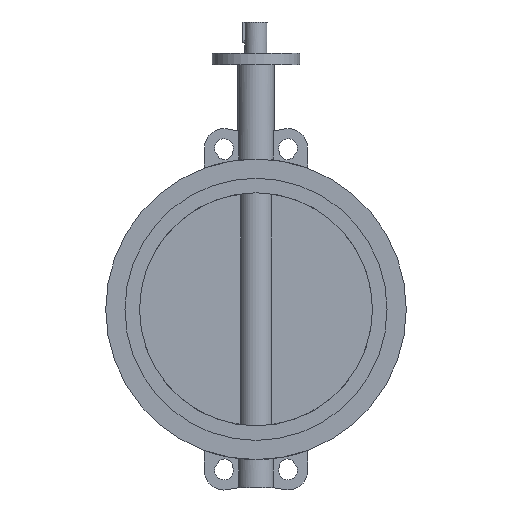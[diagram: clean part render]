
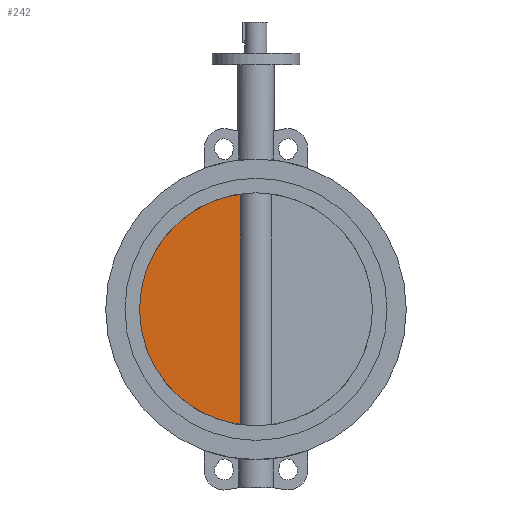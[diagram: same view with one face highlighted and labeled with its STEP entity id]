
A CAD part, left-side view. The second image highlights one B-rep face of the part: STEP entity #242.
In plain terms, the highlighted planar face has unit normal (-1, 0, 0).
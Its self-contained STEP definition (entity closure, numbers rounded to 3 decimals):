
#242=ADVANCED_FACE('',(#7409),#7411,.F.);
#7409=FACE_BOUND('',#7410,.T.);
#7410=EDGE_LOOP('',(#13065,#13066,#13067));
#7411=PLANE('',#7412);
#7412=AXIS2_PLACEMENT_3D('',#7413,#7414,#7415);
#7413=CARTESIAN_POINT('',(-10.,0.,0.));
#7414=DIRECTION('',(1.,0.,0.));
#7415=DIRECTION('',(0.,1.,0.));
#13065=ORIENTED_EDGE('',*,*,#17606,.T.);
#13066=ORIENTED_EDGE('',*,*,#17516,.T.);
#13067=ORIENTED_EDGE('',*,*,#17520,.T.);
#17516=EDGE_CURVE('',#19826,#19827,#19828,.F.);
#17520=EDGE_CURVE('',#19827,#19833,#19835,.F.);
#17606=EDGE_CURVE('',#19833,#19826,#19990,.F.);
#19826=VERTEX_POINT('',#23952);
#19827=VERTEX_POINT('',#23953);
#19828=CIRCLE('',#23954,166.65);
#19833=VERTEX_POINT('',#24039);
#19835=CIRCLE('',#24115,166.65);
#19990=LINE('',#24478,#24479);
#23952=CARTESIAN_POINT('',(-10.,21.817,165.216));
#23953=CARTESIAN_POINT('',(-10.,166.65,0.));
#23954=AXIS2_PLACEMENT_3D('',#23955,#23956,#23957);
#23955=CARTESIAN_POINT('',(-10.,0.,0.));
#23956=DIRECTION('',(1.,0.,0.));
#23957=DIRECTION('',(0.,1.,0.));
#24039=CARTESIAN_POINT('',(-10.,21.817,-165.216));
#24115=AXIS2_PLACEMENT_3D('',#24116,#24117,#24118);
#24116=CARTESIAN_POINT('',(-10.,0.,0.));
#24117=DIRECTION('',(1.,0.,0.));
#24118=DIRECTION('',(0.,0.131,-0.991));
#24478=CARTESIAN_POINT('',(-10.,21.817,165.216));
#24479=VECTOR('',#24480,1.);
#24480=DIRECTION('',(0.,0.,-1.));
